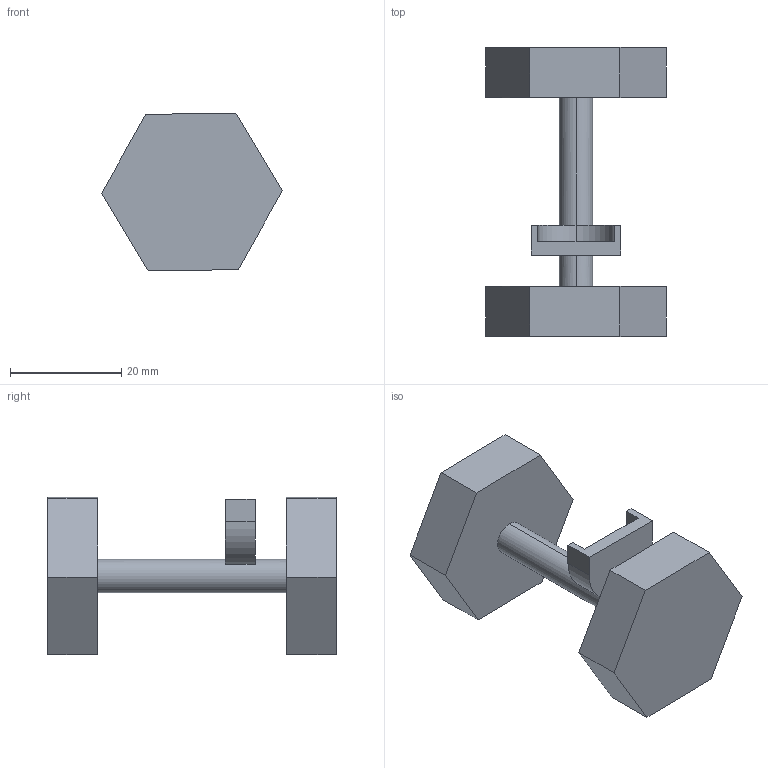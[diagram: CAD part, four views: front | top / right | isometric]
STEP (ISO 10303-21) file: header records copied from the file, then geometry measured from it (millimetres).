
FILE_DESCRIPTION (( 'STEP AP214' ), '1' );
FILE_NAME ('dumbbell.STEP', '2026-04-05T20:28:53', ( '' ), ( '' ), 'SwSTEP 2.0', 'SolidWorks 2026', '' );
FILE_SCHEMA (( 'AUTOMOTIVE_DESIGN' ));
Length unit declared in the file: millimetre
Products named in the file (1): dumbbell
Bounding box: 32.56 x 52 x 28.45 mm (x, y, z)
Volume: 13804.9 mm3; surface area: 5721.5 mm2
Topology: 1 solids, 1 shells, 34 faces, 84 edges, 55 vertices
Faces by surface type: plane 26, cylinder 8
Entity records: 1027 total; most frequent: CARTESIAN_POINT 174, DIRECTION 174, ORIENTED_EDGE 168, EDGE_CURVE 84, VECTOR 64, LINE 64, AXIS2_PLACEMENT_3D 55, VERTEX_POINT 55
